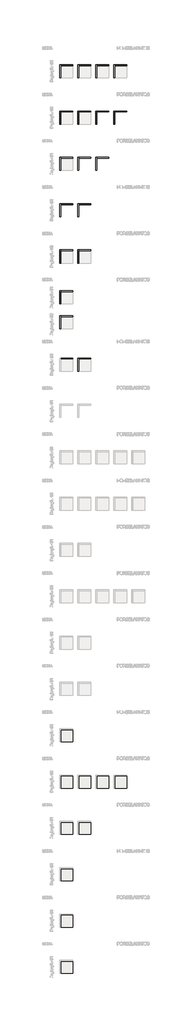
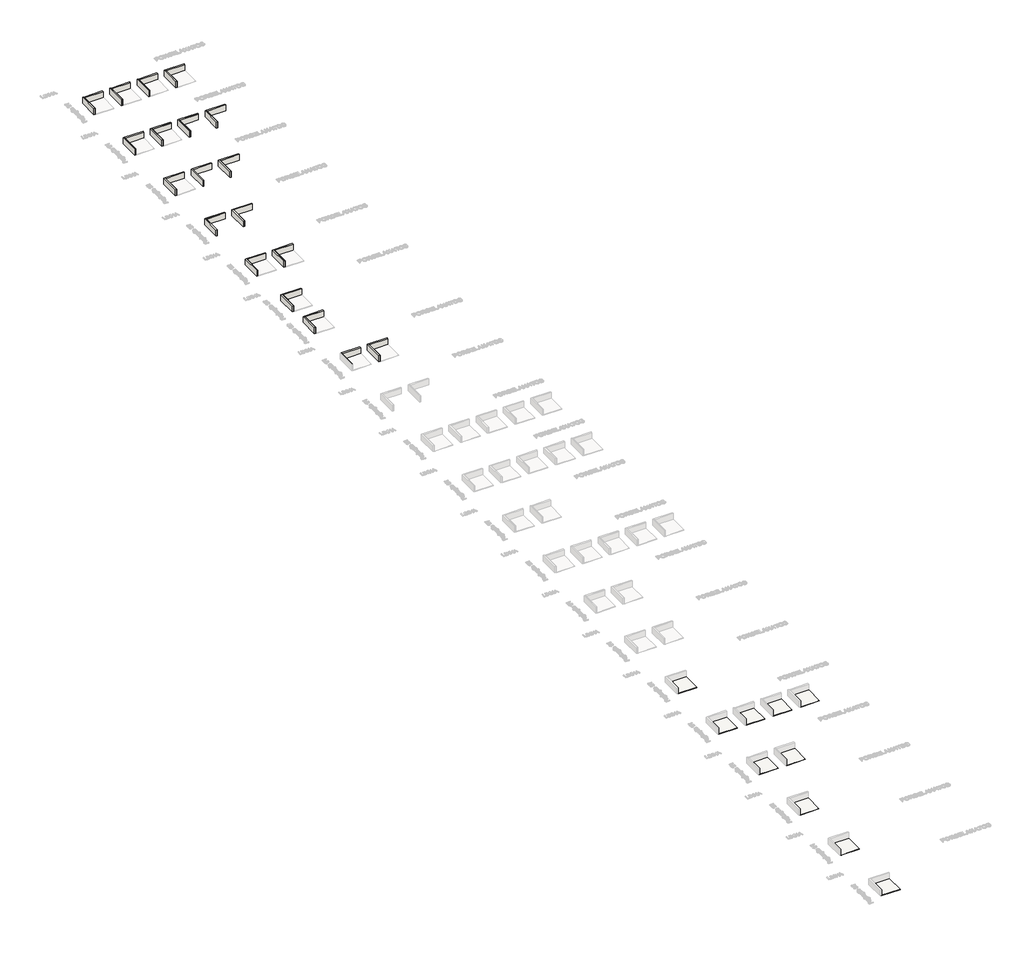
# One storey, part 3 of 17: 75 walls, 10 slabs.
"""IFC4 building model written with IfcOpenShell, lengths in millimetres."""

from ifc_helpers import new_model, si_unit, frame, origin, origin_with_axes, place, context, project, spatial, polyline, outline, extrude, faceted_brep, element, save

model = new_model("IFC4")

# Units and contexts
model_context = context("Model", 3, world=origin())
ifc_project = project(units=[si_unit("LENGTHUNIT", "METRE", prefix="MILLI")], contexts=[model_context])

# Site, building, storey
site = spatial("IfcSite", under=ifc_project)
building = spatial("IfcBuilding", under=site)
storey = spatial("IfcBuildingStorey", under=building, Name="Showroom (N.A.)", Elevation=0.0)

# Slabs
placement = place(None, origin())
element("IfcSlab", 1, ObjectType="Ceusa_Travertino_Moka_BW_NAT_80X160_Pag-1/1", at=placement, inside=storey, context=model_context, shape_type="SweptSolid", body=[
    extrude(outline(polyline([(-107054.0516826, -172022.2892857), (-110054.0516826, -172022.2892857), (-110054.0516826, -169022.2892857), (-107054.0516826, -169022.2892857), (-107054.0516826, -172022.2892857)])), frame((0.0, 0.0, -65.0), z_axis=(0.0, 0.0, 1.0), x_axis=(1.0, 0.0, 0.0)), (0.0, 0.0, 1.0), 65.0),
])
element("IfcSlab", 2, ObjectType="Ceusa_Caleidoscópio_HEX_MIX_RD_NAT_17,5X17,5_Pag-1/1", at=placement, inside=storey, context=model_context, shape_type="SweptSolid", body=[
    extrude(outline(polyline([(-107054.0516826, -183385.6601645), (-110054.0516826, -183385.6601645), (-110054.0516826, -180385.6601645), (-107054.0516826, -180385.6601645), (-107054.0516826, -183385.6601645)])), frame((0.0, 0.0, -62.4), z_axis=(0.0, 0.0, 1.0), x_axis=(1.0, 0.0, 0.0)), (0.0, 0.0, 1.0), 62.4),
])
element("IfcSlab", 3, ObjectType="Ceusa_Caleidoscópio_HEX_MIX_SGR_NAT_17,5X17,5_Pag-1/1", at=placement, inside=storey, context=model_context, shape_type="SweptSolid", body=[
    extrude(outline(polyline([(-102654.0516826, -183385.6601645), (-105654.0516826, -183385.6601645), (-105654.0516826, -180385.6601645), (-102654.0516826, -180385.6601645), (-102654.0516826, -183385.6601645)])), frame((0.0, 0.0, -62.4), z_axis=(0.0, 0.0, 1.0), x_axis=(1.0, 0.0, 0.0)), (0.0, 0.0, 1.0), 62.4),
])
element("IfcSlab", 4, ObjectType="Ceusa_Caleidoscópio_HEX_RD_NAT_17,5X17,5_Pag-1/1", at=placement, inside=storey, context=model_context, shape_type="SweptSolid", body=[
    extrude(outline(polyline([(-98254.0516826, -183385.6601645), (-101254.0516826, -183385.6601645), (-101254.0516826, -180385.6601645), (-98254.0516826, -180385.6601645), (-98254.0516826, -183385.6601645)])), frame((0.0, 0.0, -62.4), z_axis=(0.0, 0.0, 1.0), x_axis=(1.0, 0.0, 0.0)), (0.0, 0.0, 1.0), 62.4),
])
element("IfcSlab", 5, ObjectType="Ceusa_Caleidoscópio_HEX_SGR_NAT_17,5X17,5_Pag-1/1", at=placement, inside=storey, context=model_context, shape_type="SweptSolid", body=[
    extrude(outline(polyline([(-93854.0516826, -183385.6601645), (-96854.0516826, -183385.6601645), (-96854.0516826, -180385.6601645), (-93854.0516826, -180385.6601645), (-93854.0516826, -183385.6601645)])), frame((0.0, 0.0, -62.4), z_axis=(0.0, 0.0, 1.0), x_axis=(1.0, 0.0, 0.0)), (0.0, 0.0, 1.0), 62.4),
])
element("IfcSlab", 6, ObjectType="Ceusa_Piscis_GN_HARD_15x15_Pag-1/1", at=placement, inside=storey, context=model_context, shape_type="SweptSolid", body=[
    extrude(outline(polyline([(-107054.0516826, -194749.0310434), (-110054.0516826, -194749.0310434), (-110054.0516826, -191749.0310434), (-107054.0516826, -191749.0310434), (-107054.0516826, -194749.0310434)])), frame((0.0, 0.0, -62.4), z_axis=(0.0, 0.0, 1.0), x_axis=(1.0, 0.0, 0.0)), (0.0, 0.0, 1.0), 62.4),
])
element("IfcSlab", 7, ObjectType="Ceusa_Piscis_GN_NAT_15x15_Pag-1/1", at=placement, inside=storey, context=model_context, shape_type="SweptSolid", body=[
    extrude(outline(polyline([(-102654.0516826, -194749.0310434), (-105654.0516826, -194749.0310434), (-105654.0516826, -191749.0310434), (-102654.0516826, -191749.0310434), (-102654.0516826, -194749.0310434)])), frame((0.0, 0.0, -62.4), z_axis=(0.0, 0.0, 1.0), x_axis=(1.0, 0.0, 0.0)), (0.0, 0.0, 1.0), 62.4),
])
element("IfcSlab", 8, ObjectType="Ceusa_Cimento_HARD_80x80_Pag-1/1", at=placement, inside=storey, context=model_context, shape_type="SweptSolid", body=[
    extrude(outline(polyline([(-107054.0516826, -206112.4019223), (-110054.0516826, -206112.4019223), (-110054.0516826, -203112.4019223), (-107054.0516826, -203112.4019223), (-107054.0516826, -206112.4019223)])), frame((0.0, 0.0, -64.0), z_axis=(0.0, 0.0, 1.0), x_axis=(1.0, 0.0, 0.0)), (0.0, 0.0, 1.0), 64.0),
])
element("IfcSlab", 9, ObjectType="Ceusa_Talc_HARD_80x80_Pag-1/1", at=placement, inside=storey, context=model_context, shape_type="SweptSolid", body=[
    extrude(outline(polyline([(-107054.0516826, -217475.7728011), (-110054.0516826, -217475.7728011), (-110054.0516826, -214475.7728011), (-107054.0516826, -214475.7728011), (-107054.0516826, -217475.7728011)])), frame((0.0, 0.0, -64.0), z_axis=(0.0, 0.0, 1.0), x_axis=(1.0, 0.0, 0.0)), (0.0, 0.0, 1.0), 64.0),
])
element("IfcSlab", 10, ObjectType="Ceusa_Wind_HARD_80x80_Pag-1/1", at=placement, inside=storey, context=model_context, shape_type="SweptSolid", body=[
    extrude(outline(polyline([(-107054.0516826, -228839.14368), (-110054.0516826, -228839.14368), (-110054.0516826, -225839.14368), (-107054.0516826, -225839.14368), (-107054.0516826, -228839.14368)])), frame((0.0, 0.0, -64.0), z_axis=(0.0, 0.0, 1.0), x_axis=(1.0, 0.0, 0.0)), (0.0, 0.0, 1.0), 64.0),
])

# Walls
element("IfcWall", 11, ObjectType="Ceusa_Colonial_Dream_BE_HARD_100x100_Pag-1/1", at=placement, inside=storey, context=model_context, shape_type="Brep", body=[
    faceted_brep([(-107054.0516826, -6135.0969817, 0.0), (-110054.0516826, -6135.0969817, 0.0), (-110054.0516826, -6135.0969817, 1000.0), (-107054.0516826, -6135.0969817, 1000.0), (-107054.0516826, -6149.0969817, 0.0), (-107054.0516826, -6149.0969817, 1000.0), (-110040.0516826, -6149.0969817, 1000.0), (-110054.0516826, -6149.0969817, 1000.0), (-110054.0516826, -6149.0969817, 0.0), (-110040.0516826, -6149.0969817, 0.0)], [[[0, 1, 2, 3]], [[4, 5, 6, 7, 8, 9]], [[1, 0, 4, 9, 8]], [[3, 2, 7, 6, 5]], [[0, 3, 5, 4]], [[2, 1, 8, 7]]]),
])
element("IfcWall", 12, ObjectType="Ceusa_Colonial_Dream_BE_HARD_100x100_Pag-1/1", at=placement, inside=storey, context=model_context, shape_type="SweptSolid", body=[
    extrude(outline(polyline([(-110054.0516826, -9135.0969817), (-110054.0516826, -6149.0969817), (-110040.0516826, -6149.0969817), (-110040.0516826, -9135.0969817), (-110054.0516826, -9135.0969817)])), origin_with_axes(), (0.0, 0.0, 1.0), 1000.0),
])
element("IfcWall", 13, ObjectType="Ceusa_Colonial_Dream_BE_NAT_100x100_Pag-1/1", at=placement, inside=storey, context=model_context, shape_type="Brep", body=[
    faceted_brep([(-102654.0516826, -6135.0969817, 0.0), (-105654.0516826, -6135.0969817, 0.0), (-105654.0516826, -6135.0969817, 1000.0), (-102654.0516826, -6135.0969817, 1000.0), (-102654.0516826, -6149.0969817, 0.0), (-102654.0516826, -6149.0969817, 1000.0), (-105640.0516826, -6149.0969817, 1000.0), (-105654.0516826, -6149.0969817, 1000.0), (-105654.0516826, -6149.0969817, 0.0), (-105640.0516826, -6149.0969817, 0.0)], [[[0, 1, 2, 3]], [[4, 5, 6, 7, 8, 9]], [[1, 0, 4, 9, 8]], [[3, 2, 7, 6, 5]], [[0, 3, 5, 4]], [[2, 1, 8, 7]]]),
])
element("IfcWall", 14, ObjectType="Ceusa_Colonial_Dream_BE_NAT_100x100_Pag-1/1", at=placement, inside=storey, context=model_context, shape_type="SweptSolid", body=[
    extrude(outline(polyline([(-105654.0516826, -9135.0969817), (-105654.0516826, -6149.0969817), (-105640.0516826, -6149.0969817), (-105640.0516826, -9135.0969817), (-105654.0516826, -9135.0969817)])), origin_with_axes(), (0.0, 0.0, 1.0), 1000.0),
])
element("IfcWall", 15, ObjectType="Ceusa_Colonial_Dream_OFW_NAT_100x100_Pag-1/1", at=placement, inside=storey, context=model_context, shape_type="Brep", body=[
    faceted_brep([(-98254.0516826, -6135.0969817, 0.0), (-101254.0516826, -6135.0969817, 0.0), (-101254.0516826, -6135.0969817, 1000.0), (-98254.0516826, -6135.0969817, 1000.0), (-98254.0516826, -6149.0969817, 0.0), (-98254.0516826, -6149.0969817, 1000.0), (-101240.0516826, -6149.0969817, 1000.0), (-101254.0516826, -6149.0969817, 1000.0), (-101254.0516826, -6149.0969817, 0.0), (-101240.0516826, -6149.0969817, 0.0)], [[[0, 1, 2, 3]], [[4, 5, 6, 7, 8, 9]], [[1, 0, 4, 9, 8]], [[3, 2, 7, 6, 5]], [[0, 3, 5, 4]], [[2, 1, 8, 7]]]),
])
element("IfcWall", 16, ObjectType="Ceusa_Colonial_Dream_OFW_NAT_100x100_Pag-1/1", at=placement, inside=storey, context=model_context, shape_type="SweptSolid", body=[
    extrude(outline(polyline([(-101254.0516826, -9135.0969817), (-101254.0516826, -6149.0969817), (-101240.0516826, -6149.0969817), (-101240.0516826, -9135.0969817), (-101254.0516826, -9135.0969817)])), origin_with_axes(), (0.0, 0.0, 1.0), 1000.0),
])
element("IfcWall", 17, ObjectType="Ceusa_Colonial_Dream_OFW_POL_100x100_Pag-1/1", at=placement, inside=storey, context=model_context, shape_type="Brep", body=[
    faceted_brep([(-93854.0516826, -6135.0969817, 0.0), (-96854.0516826, -6135.0969817, 0.0), (-96854.0516826, -6135.0969817, 1000.0), (-93854.0516826, -6135.0969817, 1000.0), (-93854.0516826, -6149.0969817, 0.0), (-93854.0516826, -6149.0969817, 1000.0), (-96840.0516826, -6149.0969817, 1000.0), (-96854.0516826, -6149.0969817, 1000.0), (-96854.0516826, -6149.0969817, 0.0), (-96840.0516826, -6149.0969817, 0.0)], [[[0, 1, 2, 3]], [[4, 5, 6, 7, 8, 9]], [[1, 0, 4, 9, 8]], [[3, 2, 7, 6, 5]], [[0, 3, 5, 4]], [[2, 1, 8, 7]]]),
])
element("IfcWall", 18, ObjectType="Ceusa_Colonial_Dream_OFW_POL_100x100_Pag-1/1", at=placement, inside=storey, context=model_context, shape_type="SweptSolid", body=[
    extrude(outline(polyline([(-96854.0516826, -9135.0969817), (-96854.0516826, -6149.0969817), (-96840.0516826, -6149.0969817), (-96840.0516826, -9135.0969817), (-96854.0516826, -9135.0969817)])), origin_with_axes(), (0.0, 0.0, 1.0), 1000.0),
])
element("IfcWall", 19, ObjectType="Ceusa_Community_SGR_HARD_80x80_Pag-1/1", at=placement, inside=storey, context=model_context, shape_type="Brep", body=[
    faceted_brep([(-107054.0516826, -17498.4678605, 0.0), (-110054.0516826, -17498.4678605, 0.0), (-110054.0516826, -17498.4678605, 1000.0), (-107054.0516826, -17498.4678605, 1000.0), (-107054.0516826, -17512.4678605, 0.0), (-107054.0516826, -17512.4678605, 1000.0), (-110040.0516826, -17512.4678605, 1000.0), (-110054.0516826, -17512.4678605, 1000.0), (-110054.0516826, -17512.4678605, 0.0), (-110040.0516826, -17512.4678605, 0.0)], [[[0, 1, 2, 3]], [[4, 5, 6, 7, 8, 9]], [[1, 0, 4, 9, 8]], [[3, 2, 7, 6, 5]], [[0, 3, 5, 4]], [[2, 1, 8, 7]]]),
])
element("IfcWall", 20, ObjectType="Ceusa_Community_SGR_HARD_80x80_Pag-1/1", at=placement, inside=storey, context=model_context, shape_type="SweptSolid", body=[
    extrude(outline(polyline([(-110054.0516826, -20498.4678605), (-110054.0516826, -17512.4678605), (-110040.0516826, -17512.4678605), (-110040.0516826, -20498.4678605), (-110054.0516826, -20498.4678605)])), origin_with_axes(), (0.0, 0.0, 1.0), 1000.0),
])
element("IfcWall", 21, ObjectType="Ceusa_Community_SGR_NAT_80x80_Pag-1/1", at=placement, inside=storey, context=model_context, shape_type="Brep", body=[
    faceted_brep([(-102654.0516826, -17498.4678605, 0.0), (-105654.0516826, -17498.4678605, 0.0), (-105654.0516826, -17498.4678605, 1000.0), (-102654.0516826, -17498.4678605, 1000.0), (-102654.0516826, -17512.4678605, 0.0), (-102654.0516826, -17512.4678605, 1000.0), (-105640.0516826, -17512.4678605, 1000.0), (-105654.0516826, -17512.4678605, 1000.0), (-105654.0516826, -17512.4678605, 0.0), (-105640.0516826, -17512.4678605, 0.0)], [[[0, 1, 2, 3]], [[4, 5, 6, 7, 8, 9]], [[1, 0, 4, 9, 8]], [[3, 2, 7, 6, 5]], [[0, 3, 5, 4]], [[2, 1, 8, 7]]]),
])
element("IfcWall", 22, ObjectType="Ceusa_Community_SGR_NAT_80x80_Pag-1/1", at=placement, inside=storey, context=model_context, shape_type="SweptSolid", body=[
    extrude(outline(polyline([(-105654.0516826, -20498.4678605), (-105654.0516826, -17512.4678605), (-105640.0516826, -17512.4678605), (-105640.0516826, -20498.4678605), (-105654.0516826, -20498.4678605)])), origin_with_axes(), (0.0, 0.0, 1.0), 1000.0),
])
element("IfcWall", 23, ObjectType="Ceusa_Community_Decor_Mix_Matte_80x80_Pag-1/1", at=placement, inside=storey, context=model_context, shape_type="Brep", body=[
    faceted_brep([(-98254.0516826, -17498.4678605, 0.0), (-101254.0516826, -17498.4678605, 0.0), (-101254.0516826, -17498.4678605, 1000.0), (-98254.0516826, -17498.4678605, 1000.0), (-98254.0516826, -17512.4678605, 0.0), (-98254.0516826, -17512.4678605, 1000.0), (-101240.0516826, -17512.4678605, 1000.0), (-101254.0516826, -17512.4678605, 1000.0), (-101254.0516826, -17512.4678605, 0.0), (-101240.0516826, -17512.4678605, 0.0)], [[[0, 1, 2, 3]], [[4, 5, 6, 7, 8, 9]], [[1, 0, 4, 9, 8]], [[3, 2, 7, 6, 5]], [[0, 3, 5, 4]], [[2, 1, 8, 7]]]),
])
element("IfcWall", 24, ObjectType="Ceusa_Community_Decor_Mix_Matte_80x80_Pag-1/1", at=placement, inside=storey, context=model_context, shape_type="SweptSolid", body=[
    extrude(outline(polyline([(-101254.0516826, -20498.4678605), (-101254.0516826, -17512.4678605), (-101240.0516826, -17512.4678605), (-101240.0516826, -20498.4678605), (-101254.0516826, -20498.4678605)])), origin_with_axes(), (0.0, 0.0, 1.0), 1000.0),
])
element("IfcWall", 25, ObjectType="Ceusa_Community_Decor_SGR_Matte_80x80_Pag-1/1", at=placement, inside=storey, context=model_context, shape_type="Brep", body=[
    faceted_brep([(-93854.0516826, -17498.4678605, 0.0), (-96854.0516826, -17498.4678605, 0.0), (-96854.0516826, -17498.4678605, 1000.0), (-93854.0516826, -17498.4678605, 1000.0), (-93854.0516826, -17512.4678605, 0.0), (-93854.0516826, -17512.4678605, 1000.0), (-96840.0516826, -17512.4678605, 1000.0), (-96854.0516826, -17512.4678605, 1000.0), (-96854.0516826, -17512.4678605, 0.0), (-96840.0516826, -17512.4678605, 0.0)], [[[0, 1, 2, 3]], [[4, 5, 6, 7, 8, 9]], [[1, 0, 4, 9, 8]], [[3, 2, 7, 6, 5]], [[0, 3, 5, 4]], [[2, 1, 8, 7]]]),
])
element("IfcWall", 26, ObjectType="Ceusa_Community_Decor_SGR_Matte_80x80_Pag-1/1", at=placement, inside=storey, context=model_context, shape_type="SweptSolid", body=[
    extrude(outline(polyline([(-96854.0516826, -20498.4678605), (-96854.0516826, -17512.4678605), (-96840.0516826, -17512.4678605), (-96840.0516826, -20498.4678605), (-96854.0516826, -20498.4678605)])), origin_with_axes(), (0.0, 0.0, 1.0), 1000.0),
])
element("IfcWall", 27, ObjectType="Ceusa_Luster_BW_NAT_60x120_Pag-1/1", at=placement, inside=storey, context=model_context, shape_type="Brep", body=[
    faceted_brep([(-107054.0516826, -28861.8387394, 0.0), (-110054.0516826, -28861.8387394, 0.0), (-110054.0516826, -28861.8387394, 1000.0), (-107054.0516826, -28861.8387394, 1000.0), (-107054.0516826, -28876.8387394, 0.0), (-107054.0516826, -28876.8387394, 1000.0), (-110039.0516826, -28876.8387394, 1000.0), (-110054.0516826, -28876.8387394, 1000.0), (-110054.0516826, -28876.8387394, 0.0), (-110039.0516826, -28876.8387394, 0.0)], [[[0, 1, 2, 3]], [[4, 5, 6, 7, 8, 9]], [[1, 0, 4, 9, 8]], [[3, 2, 7, 6, 5]], [[0, 3, 5, 4]], [[2, 1, 8, 7]]]),
])
element("IfcWall", 28, ObjectType="Ceusa_Luster_BW_NAT_60x120_Pag-1/1", at=placement, inside=storey, context=model_context, shape_type="SweptSolid", body=[
    extrude(outline(polyline([(-110054.0516826, -31861.8387394), (-110054.0516826, -28876.8387394), (-110039.0516826, -28876.8387394), (-110039.0516826, -31861.8387394), (-110054.0516826, -31861.8387394)])), origin_with_axes(), (0.0, 0.0, 1.0), 1000.0),
])
element("IfcWall", 29, ObjectType="Ceusa_Groover_Mix_Matte_100x100_Pag-1/1", at=placement, inside=storey, context=model_context, shape_type="Brep", body=[
    faceted_brep([(-107054.0516826, -40225.2096182, 0.0), (-110054.0516826, -40225.2096182, 0.0), (-110054.0516826, -40225.2096182, 1000.0), (-107054.0516826, -40225.2096182, 1000.0), (-107054.0516826, -40240.2096182, 0.0), (-107054.0516826, -40240.2096182, 1000.0), (-110039.0516826, -40240.2096182, 1000.0), (-110054.0516826, -40240.2096182, 1000.0), (-110054.0516826, -40240.2096182, 0.0), (-110039.0516826, -40240.2096182, 0.0)], [[[0, 1, 2, 3]], [[4, 5, 6, 7, 8, 9]], [[1, 0, 4, 9, 8]], [[3, 2, 7, 6, 5]], [[0, 3, 5, 4]], [[2, 1, 8, 7]]]),
])
element("IfcWall", 30, ObjectType="Ceusa_Groover_Mix_Matte_100x100_Pag-1/1", at=placement, inside=storey, context=model_context, shape_type="SweptSolid", body=[
    extrude(outline(polyline([(-110054.0516826, -43225.2096182), (-110054.0516826, -40240.2096182), (-110039.0516826, -40240.2096182), (-110039.0516826, -43225.2096182), (-110054.0516826, -43225.2096182)])), origin_with_axes(), (0.0, 0.0, 1.0), 1000.0),
])
element("IfcWall", 31, ObjectType="Ceusa_Groover_BW_Matte_100x100_Pag-1/1", at=placement, inside=storey, context=model_context, shape_type="Brep", body=[
    faceted_brep([(-102654.0516826, -40225.2096182, 0.0), (-105654.0516826, -40225.2096182, 0.0), (-105654.0516826, -40225.2096182, 1000.0), (-102654.0516826, -40225.2096182, 1000.0), (-102654.0516826, -40240.2096182, 0.0), (-102654.0516826, -40240.2096182, 1000.0), (-105639.0516826, -40240.2096182, 1000.0), (-105654.0516826, -40240.2096182, 1000.0), (-105654.0516826, -40240.2096182, 0.0), (-105639.0516826, -40240.2096182, 0.0)], [[[0, 1, 2, 3]], [[4, 5, 6, 7, 8, 9]], [[1, 0, 4, 9, 8]], [[3, 2, 7, 6, 5]], [[0, 3, 5, 4]], [[2, 1, 8, 7]]]),
])
element("IfcWall", 32, ObjectType="Ceusa_Groover_BW_Matte_100x100_Pag-1/1", at=placement, inside=storey, context=model_context, shape_type="SweptSolid", body=[
    extrude(outline(polyline([(-105654.0516826, -43225.2096182), (-105654.0516826, -40240.2096182), (-105639.0516826, -40240.2096182), (-105639.0516826, -43225.2096182), (-105654.0516826, -43225.2096182)])), origin_with_axes(), (0.0, 0.0, 1.0), 1000.0),
])
element("IfcWall", 33, ObjectType="Ceusa_Demeter_BW_NAT_30x120_Pag-1/2", at=placement, inside=storey, context=model_context, shape_type="Brep", body=[
    faceted_brep([(-107054.0516826, -51588.5804971, 0.0), (-110054.0516826, -51588.5804971, 0.0), (-110054.0516826, -51588.5804971, 1000.0), (-107054.0516826, -51588.5804971, 1000.0), (-107054.0516826, -51603.5804971, 0.0), (-107054.0516826, -51603.5804971, 1000.0), (-110039.0516826, -51603.5804971, 1000.0), (-110054.0516826, -51603.5804971, 1000.0), (-110054.0516826, -51603.5804971, 0.0), (-110039.0516826, -51603.5804971, 0.0)], [[[0, 1, 2, 3]], [[4, 5, 6, 7, 8, 9]], [[1, 0, 4, 9, 8]], [[3, 2, 7, 6, 5]], [[0, 3, 5, 4]], [[2, 1, 8, 7]]]),
])
element("IfcWall", 34, ObjectType="Ceusa_Demeter_BW_NAT_30x120_Pag-1/2", at=placement, inside=storey, context=model_context, shape_type="SweptSolid", body=[
    extrude(outline(polyline([(-110054.0516826, -54588.5804971), (-110054.0516826, -51603.5804971), (-110039.0516826, -51603.5804971), (-110039.0516826, -54588.5804971), (-110054.0516826, -54588.5804971)])), origin_with_axes(), (0.0, 0.0, 1.0), 1000.0),
])
element("IfcWall", 35, ObjectType="Ceusa_Demeter_BW_HARD_30x120_Pag-1/2", at=placement, inside=storey, context=model_context, shape_type="Brep", body=[
    faceted_brep([(-102654.0516826, -51588.5804971, 0.0), (-105654.0516826, -51588.5804971, 0.0), (-105654.0516826, -51588.5804971, 1000.0), (-102654.0516826, -51588.5804971, 1000.0), (-102654.0516826, -51603.5804971, 0.0), (-102654.0516826, -51603.5804971, 1000.0), (-105639.0516826, -51603.5804971, 1000.0), (-105654.0516826, -51603.5804971, 1000.0), (-105654.0516826, -51603.5804971, 0.0), (-105639.0516826, -51603.5804971, 0.0)], [[[0, 1, 2, 3]], [[4, 5, 6, 7, 8, 9]], [[1, 0, 4, 9, 8]], [[3, 2, 7, 6, 5]], [[0, 3, 5, 4]], [[2, 1, 8, 7]]]),
])
element("IfcWall", 36, ObjectType="Ceusa_Demeter_BW_HARD_30x120_Pag-1/2", at=placement, inside=storey, context=model_context, shape_type="SweptSolid", body=[
    extrude(outline(polyline([(-105654.0516826, -54588.5804971), (-105654.0516826, -51603.5804971), (-105639.0516826, -51603.5804971), (-105639.0516826, -54588.5804971), (-105654.0516826, -54588.5804971)])), origin_with_axes(), (0.0, 0.0, 1.0), 1000.0),
])
element("IfcWall", 37, ObjectType="Ceusa_Teca_BE_NAT_30x120_Pag-1/2", at=placement, inside=storey, context=model_context, shape_type="Brep", body=[
    faceted_brep([(-107054.0516826, -67751.9513759, 0.0), (-110054.0516826, -67751.9513759, 0.0), (-110054.0516826, -67751.9513759, 1000.0), (-107054.0516826, -67751.9513759, 1000.0), (-107054.0516826, -67767.1513759, 0.0), (-107054.0516826, -67767.1513759, 1000.0), (-110038.8516826, -67767.1513759, 1000.0), (-110054.0516826, -67767.1513759, 1000.0), (-110054.0516826, -67767.1513759, 0.0), (-110038.8516826, -67767.1513759, 0.0)], [[[0, 1, 2, 3]], [[4, 5, 6, 7, 8, 9]], [[1, 0, 4, 9, 8]], [[3, 2, 7, 6, 5]], [[0, 3, 5, 4]], [[2, 1, 8, 7]]]),
])
element("IfcWall", 38, ObjectType="Ceusa_Teca_BE_NAT_30x120_Pag-1/2", at=placement, inside=storey, context=model_context, shape_type="SweptSolid", body=[
    extrude(outline(polyline([(-110054.0516826, -70751.9513759), (-110054.0516826, -67767.1513759), (-110038.8516826, -67767.1513759), (-110038.8516826, -70751.9513759), (-110054.0516826, -70751.9513759)])), origin_with_axes(), (0.0, 0.0, 1.0), 1000.0),
])
element("IfcWall", 39, ObjectType="Ceusa_Teca_Square_BE_NAT_100x100_Pag-1/1", at=placement, inside=storey, context=model_context, shape_type="Brep", body=[
    faceted_brep([(-107054.0516826, -61588.5804971, 0.0), (-110054.0516826, -61588.5804971, 0.0), (-110054.0516826, -61588.5804971, 1000.0), (-107054.0516826, -61588.5804971, 1000.0), (-107054.0516826, -61602.5804971, 0.0), (-107054.0516826, -61602.5804971, 1000.0), (-110040.0516826, -61602.5804971, 1000.0), (-110054.0516826, -61602.5804971, 1000.0), (-110054.0516826, -61602.5804971, 0.0), (-110040.0516826, -61602.5804971, 0.0)], [[[0, 1, 2, 3]], [[4, 5, 6, 7, 8, 9]], [[1, 0, 4, 9, 8]], [[3, 2, 7, 6, 5]], [[0, 3, 5, 4]], [[2, 1, 8, 7]]]),
])
element("IfcWall", 40, ObjectType="Ceusa_Teca_Square_BE_NAT_100x100_Pag-1/1", at=placement, inside=storey, context=model_context, shape_type="SweptSolid", body=[
    extrude(outline(polyline([(-110054.0516826, -64588.5804971), (-110054.0516826, -61602.5804971), (-110040.0516826, -61602.5804971), (-110040.0516826, -64588.5804971), (-110054.0516826, -64588.5804971)])), origin_with_axes(), (0.0, 0.0, 1.0), 1000.0),
])
element("IfcWall", 41, ObjectType="Ceusa_Luster_Decor_BW_MLX_30x120_Pag-1/1", at=placement, inside=storey, context=model_context, shape_type="Brep", body=[
    faceted_brep([(-102654.0516826, -28861.8387394, 0.0), (-105654.0516826, -28861.8387394, 0.0), (-105654.0516826, -28861.8387394, 1000.0), (-102654.0516826, -28861.8387394, 1000.0), (-102654.0516826, -28879.8387394, 0.0), (-102654.0516826, -28879.8387394, 1000.0), (-105636.0516826, -28879.8387394, 1000.0), (-105654.0516826, -28879.8387394, 1000.0), (-105654.0516826, -28879.8387394, 0.0), (-105636.0516826, -28879.8387394, 0.0)], [[[0, 1, 2, 3]], [[4, 5, 6, 7, 8, 9]], [[1, 0, 4, 9, 8]], [[3, 2, 7, 6, 5]], [[0, 3, 5, 4]], [[2, 1, 8, 7]]]),
])
element("IfcWall", 42, ObjectType="Ceusa_Luster_Decor_BW_MLX_30x120_Pag-1/1", at=placement, inside=storey, context=model_context, shape_type="SweptSolid", body=[
    extrude(outline(polyline([(-105654.0516826, -31861.8387394), (-105654.0516826, -28879.8387394), (-105636.0516826, -28879.8387394), (-105636.0516826, -31861.8387394), (-105654.0516826, -31861.8387394)])), origin_with_axes(), (0.0, 0.0, 1.0), 1000.0),
])
element("IfcWall", 43, ObjectType="Ceusa_Neat_WH_POL_100x100_Pag-1/1", at=placement, inside=storey, context=model_context, shape_type="Brep", body=[
    faceted_brep([(-107054.0516826, -78115.3222548, 0.0), (-110054.0516826, -78115.3222548, 0.0), (-110054.0516826, -78115.3222548, 1000.0), (-107054.0516826, -78115.3222548, 1000.0), (-107054.0516826, -78129.3222548, 0.0), (-107054.0516826, -78129.3222548, 1000.0), (-110040.0516826, -78129.3222548, 1000.0), (-110054.0516826, -78129.3222548, 1000.0), (-110054.0516826, -78129.3222548, 0.0), (-110040.0516826, -78129.3222548, 0.0)], [[[0, 1, 2, 3]], [[4, 5, 6, 7, 8, 9]], [[1, 0, 4, 9, 8]], [[3, 2, 7, 6, 5]], [[0, 3, 5, 4]], [[2, 1, 8, 7]]]),
])
element("IfcWall", 44, ObjectType="Ceusa_Neat_WH_POL_100x100_Pag-1/1", at=placement, inside=storey, context=model_context, shape_type="SweptSolid", body=[
    extrude(outline(polyline([(-110054.0516826, -81115.3222548), (-110054.0516826, -78129.3222548), (-110040.0516826, -78129.3222548), (-110040.0516826, -81115.3222548), (-110054.0516826, -81115.3222548)])), origin_with_axes(), (0.0, 0.0, 1.0), 1000.0),
])
element("IfcWall", 45, ObjectType="Ceusa_Neat_WH_NAT_100x100_Pag-1/1", at=placement, inside=storey, context=model_context, shape_type="Brep", body=[
    faceted_brep([(-102654.0516826, -78115.3222548, 0.0), (-105654.0516826, -78115.3222548, 0.0), (-105654.0516826, -78115.3222548, 1000.0), (-102654.0516826, -78115.3222548, 1000.0), (-102654.0516826, -78129.3222548, 0.0), (-102654.0516826, -78129.3222548, 1000.0), (-105640.0516826, -78129.3222548, 1000.0), (-105654.0516826, -78129.3222548, 1000.0), (-105654.0516826, -78129.3222548, 0.0), (-105640.0516826, -78129.3222548, 0.0)], [[[0, 1, 2, 3]], [[4, 5, 6, 7, 8, 9]], [[1, 0, 4, 9, 8]], [[3, 2, 7, 6, 5]], [[0, 3, 5, 4]], [[2, 1, 8, 7]]]),
])
element("IfcWall", 46, ObjectType="Ceusa_Neat_WH_NAT_100x100_Pag-1/1", at=placement, inside=storey, context=model_context, shape_type="SweptSolid", body=[
    extrude(outline(polyline([(-105654.0516826, -81115.3222548), (-105654.0516826, -78129.3222548), (-105640.0516826, -78129.3222548), (-105640.0516826, -81115.3222548), (-105654.0516826, -81115.3222548)])), origin_with_axes(), (0.0, 0.0, 1.0), 1000.0),
])
element("IfcWall", 47, ObjectType="Ceusa_Luster_Decor_WH_MATTE_30x120_Pag-1/1", at=placement, inside=storey, context=model_context, shape_type="Brep", body=[
    faceted_brep([(-98254.0516826, -28861.8387394, 0.0), (-101254.0516826, -28861.8387394, 0.0), (-101254.0516826, -28861.8387394, 1000.0), (-98254.0516826, -28861.8387394, 1000.0), (-98254.0516826, -28879.8387394, 0.0), (-98254.0516826, -28879.8387394, 1000.0), (-101236.0516826, -28879.8387394, 1000.0), (-101254.0516826, -28879.8387394, 1000.0), (-101254.0516826, -28879.8387394, 0.0), (-101236.0516826, -28879.8387394, 0.0)], [[[0, 1, 2, 3]], [[4, 5, 6, 7, 8, 9]], [[1, 0, 4, 9, 8]], [[3, 2, 7, 6, 5]], [[0, 3, 5, 4]], [[2, 1, 8, 7]]]),
])
element("IfcWall", 48, ObjectType="Ceusa_Luster_Decor_WH_MATTE_30x120_Pag-1/1", at=placement, inside=storey, context=model_context, shape_type="SweptSolid", body=[
    extrude(outline(polyline([(-101254.0516826, -31861.8387394), (-101254.0516826, -28879.8387394), (-101236.0516826, -28879.8387394), (-101236.0516826, -31861.8387394), (-101254.0516826, -31861.8387394)])), origin_with_axes(), (0.0, 0.0, 1.0), 1000.0),
])
element("IfcWall", 49, ObjectType="Wall 1", at=placement, inside=storey, context=model_context, shape_type="Brep", body=[
    faceted_brep([(-110054.0516826, -9135.0969817, 0.0), (-110054.0516826, -6135.0969817, 0.0), (-110054.0516826, -5935.0969817, 0.0), (-110054.0516826, -5935.0969817, 1000.0), (-110054.0516826, -6135.0969817, 1000.0), (-110054.0516826, -9135.0969817, 1000.0), (-110254.0516826, -9135.0969817, 0.0), (-110254.0516826, -9135.0969817, 1000.0), (-110254.0516826, -5935.0969817, 1000.0), (-110254.0516826, -5935.0969817, 0.0)], [[[0, 1, 2, 3, 4, 5]], [[6, 7, 8, 9]], [[2, 1, 0, 6, 9]], [[5, 4, 3, 8, 7]], [[0, 5, 7, 6]], [[3, 2, 9, 8]]]),
])
element("IfcWall", 50, ObjectType="Wall 1", at=placement, inside=storey, context=model_context, shape_type="SweptSolid", body=[
    extrude(outline(polyline([(-107054.0516826, -6135.0969817), (-110054.0516826, -6135.0969817), (-110054.0516826, -5935.0969817), (-107054.0516826, -5935.0969817), (-107054.0516826, -6135.0969817)])), origin_with_axes(), (0.0, 0.0, 1.0), 1000.0),
])
element("IfcWall", 51, ObjectType="Wall 1", at=placement, inside=storey, context=model_context, shape_type="Brep", body=[
    faceted_brep([(-105654.0516826, -9135.0969817, 0.0), (-105654.0516826, -6135.0969817, 0.0), (-105654.0516826, -5935.0969817, 0.0), (-105654.0516826, -5935.0969817, 1000.0), (-105654.0516826, -6135.0969817, 1000.0), (-105654.0516826, -9135.0969817, 1000.0), (-105854.0516826, -9135.0969817, 0.0), (-105854.0516826, -9135.0969817, 1000.0), (-105854.0516826, -5935.0969817, 1000.0), (-105854.0516826, -5935.0969817, 0.0)], [[[0, 1, 2, 3, 4, 5]], [[6, 7, 8, 9]], [[2, 1, 0, 6, 9]], [[5, 4, 3, 8, 7]], [[0, 5, 7, 6]], [[3, 2, 9, 8]]]),
])
element("IfcWall", 52, ObjectType="Wall 1", at=placement, inside=storey, context=model_context, shape_type="SweptSolid", body=[
    extrude(outline(polyline([(-102654.0516826, -6135.0969817), (-105654.0516826, -6135.0969817), (-105654.0516826, -5935.0969817), (-102654.0516826, -5935.0969817), (-102654.0516826, -6135.0969817)])), origin_with_axes(), (0.0, 0.0, 1.0), 1000.0),
])
element("IfcWall", 53, ObjectType="Wall 1", at=placement, inside=storey, context=model_context, shape_type="Brep", body=[
    faceted_brep([(-101254.0516826, -9135.0969817, 0.0), (-101254.0516826, -6135.0969817, 0.0), (-101254.0516826, -5935.0969817, 0.0), (-101254.0516826, -5935.0969817, 1000.0), (-101254.0516826, -6135.0969817, 1000.0), (-101254.0516826, -9135.0969817, 1000.0), (-101454.0516826, -9135.0969817, 0.0), (-101454.0516826, -9135.0969817, 1000.0), (-101454.0516826, -5935.0969817, 1000.0), (-101454.0516826, -5935.0969817, 0.0)], [[[0, 1, 2, 3, 4, 5]], [[6, 7, 8, 9]], [[2, 1, 0, 6, 9]], [[5, 4, 3, 8, 7]], [[0, 5, 7, 6]], [[3, 2, 9, 8]]]),
])
element("IfcWall", 54, ObjectType="Wall 1", at=placement, inside=storey, context=model_context, shape_type="SweptSolid", body=[
    extrude(outline(polyline([(-98254.0516826, -6135.0969817), (-101254.0516826, -6135.0969817), (-101254.0516826, -5935.0969817), (-98254.0516826, -5935.0969817), (-98254.0516826, -6135.0969817)])), origin_with_axes(), (0.0, 0.0, 1.0), 1000.0),
])
element("IfcWall", 55, ObjectType="Wall 1", at=placement, inside=storey, context=model_context, shape_type="Brep", body=[
    faceted_brep([(-96854.0516826, -9135.0969817, 0.0), (-96854.0516826, -6135.0969817, 0.0), (-96854.0516826, -5935.0969817, 0.0), (-96854.0516826, -5935.0969817, 1000.0), (-96854.0516826, -6135.0969817, 1000.0), (-96854.0516826, -9135.0969817, 1000.0), (-97054.0516826, -9135.0969817, 0.0), (-97054.0516826, -9135.0969817, 1000.0), (-97054.0516826, -5935.0969817, 1000.0), (-97054.0516826, -5935.0969817, 0.0)], [[[0, 1, 2, 3, 4, 5]], [[6, 7, 8, 9]], [[2, 1, 0, 6, 9]], [[5, 4, 3, 8, 7]], [[0, 5, 7, 6]], [[3, 2, 9, 8]]]),
])
element("IfcWall", 56, ObjectType="Wall 1", at=placement, inside=storey, context=model_context, shape_type="SweptSolid", body=[
    extrude(outline(polyline([(-93854.0516826, -6135.0969817), (-96854.0516826, -6135.0969817), (-96854.0516826, -5935.0969817), (-93854.0516826, -5935.0969817), (-93854.0516826, -6135.0969817)])), origin_with_axes(), (0.0, 0.0, 1.0), 1000.0),
])
element("IfcWall", 57, ObjectType="Wall 1", at=placement, inside=storey, context=model_context, shape_type="Brep", body=[
    faceted_brep([(-110054.0516826, -20498.4678605, 0.0), (-110054.0516826, -17498.4678605, 0.0), (-110054.0516826, -17298.4678605, 0.0), (-110054.0516826, -17298.4678605, 1000.0), (-110054.0516826, -17498.4678605, 1000.0), (-110054.0516826, -20498.4678605, 1000.0), (-110254.0516826, -20498.4678605, 0.0), (-110254.0516826, -20498.4678605, 1000.0), (-110254.0516826, -17298.4678605, 1000.0), (-110254.0516826, -17298.4678605, 0.0)], [[[0, 1, 2, 3, 4, 5]], [[6, 7, 8, 9]], [[2, 1, 0, 6, 9]], [[5, 4, 3, 8, 7]], [[0, 5, 7, 6]], [[3, 2, 9, 8]]]),
])
element("IfcWall", 58, ObjectType="Wall 1", at=placement, inside=storey, context=model_context, shape_type="SweptSolid", body=[
    extrude(outline(polyline([(-107054.0516826, -17498.4678605), (-110054.0516826, -17498.4678605), (-110054.0516826, -17298.4678605), (-107054.0516826, -17298.4678605), (-107054.0516826, -17498.4678605)])), origin_with_axes(), (0.0, 0.0, 1.0), 1000.0),
])
element("IfcWall", 59, ObjectType="Wall 1", at=placement, inside=storey, context=model_context, shape_type="Brep", body=[
    faceted_brep([(-105654.0516826, -20498.4678605, 0.0), (-105654.0516826, -17498.4678605, 0.0), (-105654.0516826, -17298.4678605, 0.0), (-105654.0516826, -17298.4678605, 1000.0), (-105654.0516826, -17498.4678605, 1000.0), (-105654.0516826, -20498.4678605, 1000.0), (-105854.0516826, -20498.4678605, 0.0), (-105854.0516826, -20498.4678605, 1000.0), (-105854.0516826, -17298.4678605, 1000.0), (-105854.0516826, -17298.4678605, 0.0)], [[[0, 1, 2, 3, 4, 5]], [[6, 7, 8, 9]], [[2, 1, 0, 6, 9]], [[5, 4, 3, 8, 7]], [[0, 5, 7, 6]], [[3, 2, 9, 8]]]),
])
element("IfcWall", 60, ObjectType="Wall 1", at=placement, inside=storey, context=model_context, shape_type="SweptSolid", body=[
    extrude(outline(polyline([(-102654.0516826, -17498.4678605), (-105654.0516826, -17498.4678605), (-105654.0516826, -17298.4678605), (-102654.0516826, -17298.4678605), (-102654.0516826, -17498.4678605)])), origin_with_axes(), (0.0, 0.0, 1.0), 1000.0),
])
element("IfcWall", 61, ObjectType="Wall 1", at=placement, inside=storey, context=model_context, shape_type="Brep", body=[
    faceted_brep([(-101254.0516826, -20498.4678605, 0.0), (-101254.0516826, -17498.4678605, 0.0), (-101254.0516826, -17298.4678605, 0.0), (-101254.0516826, -17298.4678605, 1000.0), (-101254.0516826, -17498.4678605, 1000.0), (-101254.0516826, -20498.4678605, 1000.0), (-101454.0516826, -20498.4678605, 0.0), (-101454.0516826, -20498.4678605, 1000.0), (-101454.0516826, -17298.4678605, 1000.0), (-101454.0516826, -17298.4678605, 0.0)], [[[0, 1, 2, 3, 4, 5]], [[6, 7, 8, 9]], [[2, 1, 0, 6, 9]], [[5, 4, 3, 8, 7]], [[0, 5, 7, 6]], [[3, 2, 9, 8]]]),
])
element("IfcWall", 62, ObjectType="Wall 1", at=placement, inside=storey, context=model_context, shape_type="SweptSolid", body=[
    extrude(outline(polyline([(-98254.0516826, -17498.4678605), (-101254.0516826, -17498.4678605), (-101254.0516826, -17298.4678605), (-98254.0516826, -17298.4678605), (-98254.0516826, -17498.4678605)])), origin_with_axes(), (0.0, 0.0, 1.0), 1000.0),
])
element("IfcWall", 63, ObjectType="Wall 1", at=placement, inside=storey, context=model_context, shape_type="Brep", body=[
    faceted_brep([(-96854.0516826, -20498.4678605, 0.0), (-96854.0516826, -17498.4678605, 0.0), (-96854.0516826, -17298.4678605, 0.0), (-96854.0516826, -17298.4678605, 1000.0), (-96854.0516826, -17498.4678605, 1000.0), (-96854.0516826, -20498.4678605, 1000.0), (-97054.0516826, -20498.4678605, 0.0), (-97054.0516826, -20498.4678605, 1000.0), (-97054.0516826, -17298.4678605, 1000.0), (-97054.0516826, -17298.4678605, 0.0)], [[[0, 1, 2, 3, 4, 5]], [[6, 7, 8, 9]], [[2, 1, 0, 6, 9]], [[5, 4, 3, 8, 7]], [[0, 5, 7, 6]], [[3, 2, 9, 8]]]),
])
element("IfcWall", 64, ObjectType="Wall 1", at=placement, inside=storey, context=model_context, shape_type="SweptSolid", body=[
    extrude(outline(polyline([(-93854.0516826, -17498.4678605), (-96854.0516826, -17498.4678605), (-96854.0516826, -17298.4678605), (-93854.0516826, -17298.4678605), (-93854.0516826, -17498.4678605)])), origin_with_axes(), (0.0, 0.0, 1.0), 1000.0),
])
element("IfcWall", 65, ObjectType="Wall 1", at=placement, inside=storey, context=model_context, shape_type="Brep", body=[
    faceted_brep([(-110054.0516826, -31861.8387394, 0.0), (-110054.0516826, -28861.8387394, 0.0), (-110054.0516826, -28661.8387394, 0.0), (-110054.0516826, -28661.8387394, 1000.0), (-110054.0516826, -28861.8387394, 1000.0), (-110054.0516826, -31861.8387394, 1000.0), (-110254.0516826, -31861.8387394, 0.0), (-110254.0516826, -31861.8387394, 1000.0), (-110254.0516826, -28661.8387394, 1000.0), (-110254.0516826, -28661.8387394, 0.0)], [[[0, 1, 2, 3, 4, 5]], [[6, 7, 8, 9]], [[2, 1, 0, 6, 9]], [[5, 4, 3, 8, 7]], [[0, 5, 7, 6]], [[3, 2, 9, 8]]]),
])
element("IfcWall", 66, ObjectType="Wall 1", at=placement, inside=storey, context=model_context, shape_type="SweptSolid", body=[
    extrude(outline(polyline([(-107054.0516826, -28861.8387394), (-110054.0516826, -28861.8387394), (-110054.0516826, -28661.8387394), (-107054.0516826, -28661.8387394), (-107054.0516826, -28861.8387394)])), origin_with_axes(), (0.0, 0.0, 1.0), 1000.0),
])
element("IfcWall", 67, ObjectType="Wall 1", at=placement, inside=storey, context=model_context, shape_type="Brep", body=[
    faceted_brep([(-110054.0516826, -43225.2096182, 0.0), (-110054.0516826, -40225.2096182, 0.0), (-110054.0516826, -40025.2096182, 0.0), (-110054.0516826, -40025.2096182, 1000.0), (-110054.0516826, -40225.2096182, 1000.0), (-110054.0516826, -43225.2096182, 1000.0), (-110254.0516826, -43225.2096182, 0.0), (-110254.0516826, -43225.2096182, 1000.0), (-110254.0516826, -40025.2096182, 1000.0), (-110254.0516826, -40025.2096182, 0.0)], [[[0, 1, 2, 3, 4, 5]], [[6, 7, 8, 9]], [[2, 1, 0, 6, 9]], [[5, 4, 3, 8, 7]], [[0, 5, 7, 6]], [[3, 2, 9, 8]]]),
])
element("IfcWall", 68, ObjectType="Wall 1", at=placement, inside=storey, context=model_context, shape_type="SweptSolid", body=[
    extrude(outline(polyline([(-107054.0516826, -40225.2096182), (-110054.0516826, -40225.2096182), (-110054.0516826, -40025.2096182), (-107054.0516826, -40025.2096182), (-107054.0516826, -40225.2096182)])), origin_with_axes(), (0.0, 0.0, 1.0), 1000.0),
])
element("IfcWall", 69, ObjectType="Wall 1", at=placement, inside=storey, context=model_context, shape_type="Brep", body=[
    faceted_brep([(-105654.0516826, -43225.2096182, 0.0), (-105654.0516826, -40225.2096182, 0.0), (-105654.0516826, -40025.2096182, 0.0), (-105654.0516826, -40025.2096182, 1000.0), (-105654.0516826, -40225.2096182, 1000.0), (-105654.0516826, -43225.2096182, 1000.0), (-105854.0516826, -43225.2096182, 0.0), (-105854.0516826, -43225.2096182, 1000.0), (-105854.0516826, -40025.2096182, 1000.0), (-105854.0516826, -40025.2096182, 0.0)], [[[0, 1, 2, 3, 4, 5]], [[6, 7, 8, 9]], [[2, 1, 0, 6, 9]], [[5, 4, 3, 8, 7]], [[0, 5, 7, 6]], [[3, 2, 9, 8]]]),
])
element("IfcWall", 70, ObjectType="Wall 1", at=placement, inside=storey, context=model_context, shape_type="SweptSolid", body=[
    extrude(outline(polyline([(-102654.0516826, -40225.2096182), (-105654.0516826, -40225.2096182), (-105654.0516826, -40025.2096182), (-102654.0516826, -40025.2096182), (-102654.0516826, -40225.2096182)])), origin_with_axes(), (0.0, 0.0, 1.0), 1000.0),
])
element("IfcWall", 71, ObjectType="Wall 1", at=placement, inside=storey, context=model_context, shape_type="Brep", body=[
    faceted_brep([(-110054.0516826, -54588.5804971, 0.0), (-110054.0516826, -51588.5804971, 0.0), (-110054.0516826, -51388.5804971, 0.0), (-110054.0516826, -51388.5804971, 1000.0), (-110054.0516826, -51588.5804971, 1000.0), (-110054.0516826, -54588.5804971, 1000.0), (-110254.0516826, -54588.5804971, 0.0), (-110254.0516826, -54588.5804971, 1000.0), (-110254.0516826, -51388.5804971, 1000.0), (-110254.0516826, -51388.5804971, 0.0)], [[[0, 1, 2, 3, 4, 5]], [[6, 7, 8, 9]], [[2, 1, 0, 6, 9]], [[5, 4, 3, 8, 7]], [[0, 5, 7, 6]], [[3, 2, 9, 8]]]),
])
element("IfcWall", 72, ObjectType="Wall 1", at=placement, inside=storey, context=model_context, shape_type="SweptSolid", body=[
    extrude(outline(polyline([(-107054.0516826, -51588.5804971), (-110054.0516826, -51588.5804971), (-110054.0516826, -51388.5804971), (-107054.0516826, -51388.5804971), (-107054.0516826, -51588.5804971)])), origin_with_axes(), (0.0, 0.0, 1.0), 1000.0),
])
element("IfcWall", 73, ObjectType="Wall 1", at=placement, inside=storey, context=model_context, shape_type="Brep", body=[
    faceted_brep([(-105654.0516826, -54588.5804971, 0.0), (-105654.0516826, -51588.5804971, 0.0), (-105654.0516826, -51388.5804971, 0.0), (-105654.0516826, -51388.5804971, 1000.0), (-105654.0516826, -51588.5804971, 1000.0), (-105654.0516826, -54588.5804971, 1000.0), (-105854.0516826, -54588.5804971, 0.0), (-105854.0516826, -54588.5804971, 1000.0), (-105854.0516826, -51388.5804971, 1000.0), (-105854.0516826, -51388.5804971, 0.0)], [[[0, 1, 2, 3, 4, 5]], [[6, 7, 8, 9]], [[2, 1, 0, 6, 9]], [[5, 4, 3, 8, 7]], [[0, 5, 7, 6]], [[3, 2, 9, 8]]]),
])
element("IfcWall", 74, ObjectType="Wall 1", at=placement, inside=storey, context=model_context, shape_type="SweptSolid", body=[
    extrude(outline(polyline([(-102654.0516826, -51588.5804971), (-105654.0516826, -51588.5804971), (-105654.0516826, -51388.5804971), (-102654.0516826, -51388.5804971), (-102654.0516826, -51588.5804971)])), origin_with_axes(), (0.0, 0.0, 1.0), 1000.0),
])
element("IfcWall", 75, ObjectType="Wall 1", at=placement, inside=storey, context=model_context, shape_type="Brep", body=[
    faceted_brep([(-110054.0516826, -70751.9513759, 0.0), (-110054.0516826, -67751.9513759, 0.0), (-110054.0516826, -67551.9513759, 0.0), (-110054.0516826, -67551.9513759, 1000.0), (-110054.0516826, -67751.9513759, 1000.0), (-110054.0516826, -70751.9513759, 1000.0), (-110254.0516826, -70751.9513759, 0.0), (-110254.0516826, -70751.9513759, 1000.0), (-110254.0516826, -67551.9513759, 1000.0), (-110254.0516826, -67551.9513759, 0.0)], [[[0, 1, 2, 3, 4, 5]], [[6, 7, 8, 9]], [[2, 1, 0, 6, 9]], [[5, 4, 3, 8, 7]], [[0, 5, 7, 6]], [[3, 2, 9, 8]]]),
])
element("IfcWall", 76, ObjectType="Wall 1", at=placement, inside=storey, context=model_context, shape_type="SweptSolid", body=[
    extrude(outline(polyline([(-107054.0516826, -67751.9513759), (-110054.0516826, -67751.9513759), (-110054.0516826, -67551.9513759), (-107054.0516826, -67551.9513759), (-107054.0516826, -67751.9513759)])), origin_with_axes(), (0.0, 0.0, 1.0), 1000.0),
])
element("IfcWall", 77, ObjectType="Wall 1", at=placement, inside=storey, context=model_context, shape_type="Brep", body=[
    faceted_brep([(-110054.0516826, -64588.5804971, 0.0), (-110054.0516826, -61588.5804971, 0.0), (-110054.0516826, -61388.5804971, 0.0), (-110054.0516826, -61388.5804971, 1000.0), (-110054.0516826, -61588.5804971, 1000.0), (-110054.0516826, -64588.5804971, 1000.0), (-110254.0516826, -64588.5804971, 0.0), (-110254.0516826, -64588.5804971, 1000.0), (-110254.0516826, -61388.5804971, 1000.0), (-110254.0516826, -61388.5804971, 0.0)], [[[0, 1, 2, 3, 4, 5]], [[6, 7, 8, 9]], [[2, 1, 0, 6, 9]], [[5, 4, 3, 8, 7]], [[0, 5, 7, 6]], [[3, 2, 9, 8]]]),
])
element("IfcWall", 78, ObjectType="Wall 1", at=placement, inside=storey, context=model_context, shape_type="SweptSolid", body=[
    extrude(outline(polyline([(-107054.0516826, -61588.5804971), (-110054.0516826, -61588.5804971), (-110054.0516826, -61388.5804971), (-107054.0516826, -61388.5804971), (-107054.0516826, -61588.5804971)])), origin_with_axes(), (0.0, 0.0, 1.0), 1000.0),
])
element("IfcWall", 79, ObjectType="Wall 1", at=placement, inside=storey, context=model_context, shape_type="Brep", body=[
    faceted_brep([(-105654.0516826, -31861.8387394, 0.0), (-105654.0516826, -28861.8387394, 0.0), (-105654.0516826, -28661.8387394, 0.0), (-105654.0516826, -28661.8387394, 1000.0), (-105654.0516826, -28861.8387394, 1000.0), (-105654.0516826, -31861.8387394, 1000.0), (-105854.0516826, -31861.8387394, 0.0), (-105854.0516826, -31861.8387394, 1000.0), (-105854.0516826, -28661.8387394, 1000.0), (-105854.0516826, -28661.8387394, 0.0)], [[[0, 1, 2, 3, 4, 5]], [[6, 7, 8, 9]], [[2, 1, 0, 6, 9]], [[5, 4, 3, 8, 7]], [[0, 5, 7, 6]], [[3, 2, 9, 8]]]),
])
element("IfcWall", 80, ObjectType="Wall 1", at=placement, inside=storey, context=model_context, shape_type="SweptSolid", body=[
    extrude(outline(polyline([(-102654.0516826, -28861.8387394), (-105654.0516826, -28861.8387394), (-105654.0516826, -28661.8387394), (-102654.0516826, -28661.8387394), (-102654.0516826, -28861.8387394)])), origin_with_axes(), (0.0, 0.0, 1.0), 1000.0),
])
element("IfcWall", 81, ObjectType="Wall 1", at=placement, inside=storey, context=model_context, shape_type="SweptSolid", body=[
    extrude(outline(polyline([(-107054.0516826, -78115.3222548), (-110054.0516826, -78115.3222548), (-110054.0516826, -77915.3222548), (-107054.0516826, -77915.3222548), (-107054.0516826, -78115.3222548)])), origin_with_axes(), (0.0, 0.0, 1.0), 1000.0),
])
element("IfcWall", 82, ObjectType="Wall 1", at=placement, inside=storey, context=model_context, shape_type="Brep", body=[
    faceted_brep([(-105654.0516826, -81115.3222548, 0.0), (-105654.0516826, -78115.3222548, 0.0), (-105654.0516826, -77915.3222548, 0.0), (-105654.0516826, -77915.3222548, 1000.0), (-105654.0516826, -78115.3222548, 1000.0), (-105654.0516826, -81115.3222548, 1000.0), (-105854.0516826, -81115.3222548, 0.0), (-105854.0516826, -81115.3222548, 1000.0), (-105854.0516826, -77915.3222548, 1000.0), (-105854.0516826, -77915.3222548, 0.0)], [[[0, 1, 2, 3, 4, 5]], [[6, 7, 8, 9]], [[2, 1, 0, 6, 9]], [[5, 4, 3, 8, 7]], [[0, 5, 7, 6]], [[3, 2, 9, 8]]]),
])
element("IfcWall", 83, ObjectType="Wall 1", at=placement, inside=storey, context=model_context, shape_type="SweptSolid", body=[
    extrude(outline(polyline([(-102654.0516826, -78115.3222548), (-105654.0516826, -78115.3222548), (-105654.0516826, -77915.3222548), (-102654.0516826, -77915.3222548), (-102654.0516826, -78115.3222548)])), origin_with_axes(), (0.0, 0.0, 1.0), 1000.0),
])
element("IfcWall", 84, ObjectType="Wall 1", at=placement, inside=storey, context=model_context, shape_type="Brep", body=[
    faceted_brep([(-101254.0516826, -31861.8387394, 0.0), (-101254.0516826, -28861.8387394, 0.0), (-101254.0516826, -28661.8387394, 0.0), (-101254.0516826, -28661.8387394, 1000.0), (-101254.0516826, -28861.8387394, 1000.0), (-101254.0516826, -31861.8387394, 1000.0), (-101454.0516826, -31861.8387394, 0.0), (-101454.0516826, -31861.8387394, 1000.0), (-101454.0516826, -28661.8387394, 1000.0), (-101454.0516826, -28661.8387394, 0.0)], [[[0, 1, 2, 3, 4, 5]], [[6, 7, 8, 9]], [[2, 1, 0, 6, 9]], [[5, 4, 3, 8, 7]], [[0, 5, 7, 6]], [[3, 2, 9, 8]]]),
])
element("IfcWall", 85, ObjectType="Wall 1", at=placement, inside=storey, context=model_context, shape_type="SweptSolid", body=[
    extrude(outline(polyline([(-98254.0516826, -28861.8387394), (-101254.0516826, -28861.8387394), (-101254.0516826, -28661.8387394), (-98254.0516826, -28661.8387394), (-98254.0516826, -28861.8387394)])), origin_with_axes(), (0.0, 0.0, 1.0), 1000.0),
])

save(model, "model.ifc")
